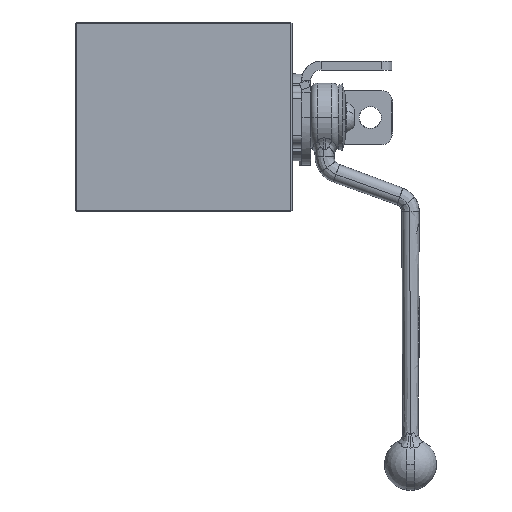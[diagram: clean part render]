
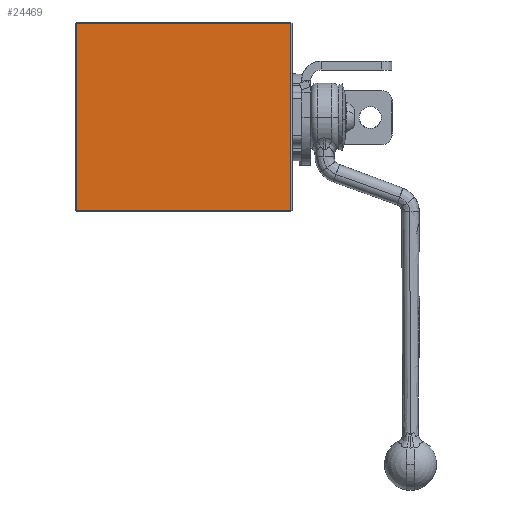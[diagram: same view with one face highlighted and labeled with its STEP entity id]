
A CAD part, front view. The second image highlights one B-rep face of the part: STEP entity #24469.
In plain terms, the highlighted planar face has unit normal (0, -1, 0).
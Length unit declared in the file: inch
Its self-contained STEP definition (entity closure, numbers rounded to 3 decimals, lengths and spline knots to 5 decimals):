
#10 = EDGE_LOOP ( 'NONE', ( #48151, #42927, #45980, #44825 ) ) ;
#2025 = CARTESIAN_POINT ( 'NONE',  ( -0.24694, -0.05331, 4.6726 ) ) ;
#2499 = VECTOR ( 'NONE', #55788, 39.37008 ) ;
#3365 = CARTESIAN_POINT ( 'NONE',  ( 3.69806, -0.05331, 4.6726 ) ) ;
#3639 = CARTESIAN_POINT ( 'NONE',  ( -0.26694, -0.05331, 4.6926 ) ) ;
#4056 = VERTEX_POINT ( 'NONE', #2025 ) ;
#5789 = VERTEX_POINT ( 'NONE', #25389 ) ;
#6988 = LINE ( 'NONE', #59525, #42101 ) ;
#8316 = CARTESIAN_POINT ( 'NONE',  ( -0.24694, -0.05331, 4.6926 ) ) ;
#10047 = VERTEX_POINT ( 'NONE', #32828 ) ;
#13455 = CARTESIAN_POINT ( 'NONE',  ( 3.71806, -0.05331, 1.2276 ) ) ;
#13512 = DIRECTION ( 'NONE',  ( 0., 1., 0. ) ) ;
#15162 = AXIS2_PLACEMENT_3D ( 'NONE', #3639, #13512, #55540 ) ;
#19700 = EDGE_CURVE ( 'NONE', #5789, #47566, #6988, .T. ) ;
#23022 = LINE ( 'NONE', #13455, #2499 ) ;
#24469 = ADVANCED_FACE ( 'NONE', ( #50001 ), #41377, .F. ) ;
#25148 = EDGE_CURVE ( 'NONE', #47566, #4056, #52064, .T. ) ;
#25389 = CARTESIAN_POINT ( 'NONE',  ( 3.69806, -0.05331, 1.2276 ) ) ;
#25811 = VECTOR ( 'NONE', #32898, 39.37008 ) ;
#27176 = DIRECTION ( 'NONE',  ( 0., 0., -1. ) ) ;
#27357 = EDGE_CURVE ( 'NONE', #4056, #10047, #50679, .T. ) ;
#32773 = VECTOR ( 'NONE', #27176, 39.37008 ) ;
#32828 = CARTESIAN_POINT ( 'NONE',  ( -0.24694, -0.05331, 1.2276 ) ) ;
#32898 = DIRECTION ( 'NONE',  ( -1., 0., 0. ) ) ;
#41377 = PLANE ( 'NONE',  #15162 ) ;
#42101 = VECTOR ( 'NONE', #45627, 39.37008 ) ;
#42927 = ORIENTED_EDGE ( 'NONE', *, *, #25148, .T. ) ;
#44825 = ORIENTED_EDGE ( 'NONE', *, *, #49328, .T. ) ;
#45627 = DIRECTION ( 'NONE',  ( 0., 0., 1. ) ) ;
#45980 = ORIENTED_EDGE ( 'NONE', *, *, #27357, .T. ) ;
#46830 = CARTESIAN_POINT ( 'NONE',  ( -0.26694, -0.05331, 4.6726 ) ) ;
#47566 = VERTEX_POINT ( 'NONE', #3365 ) ;
#48151 = ORIENTED_EDGE ( 'NONE', *, *, #19700, .T. ) ;
#49328 = EDGE_CURVE ( 'NONE', #10047, #5789, #23022, .T. ) ;
#50001 = FACE_OUTER_BOUND ( 'NONE', #10, .T. ) ;
#50679 = LINE ( 'NONE', #8316, #32773 ) ;
#52064 = LINE ( 'NONE', #46830, #25811 ) ;
#55540 = DIRECTION ( 'NONE',  ( 0., 0., 1. ) ) ;
#55788 = DIRECTION ( 'NONE',  ( 1., 0., 0. ) ) ;
#59525 = CARTESIAN_POINT ( 'NONE',  ( 3.69806, -0.05331, 4.6926 ) ) ;
